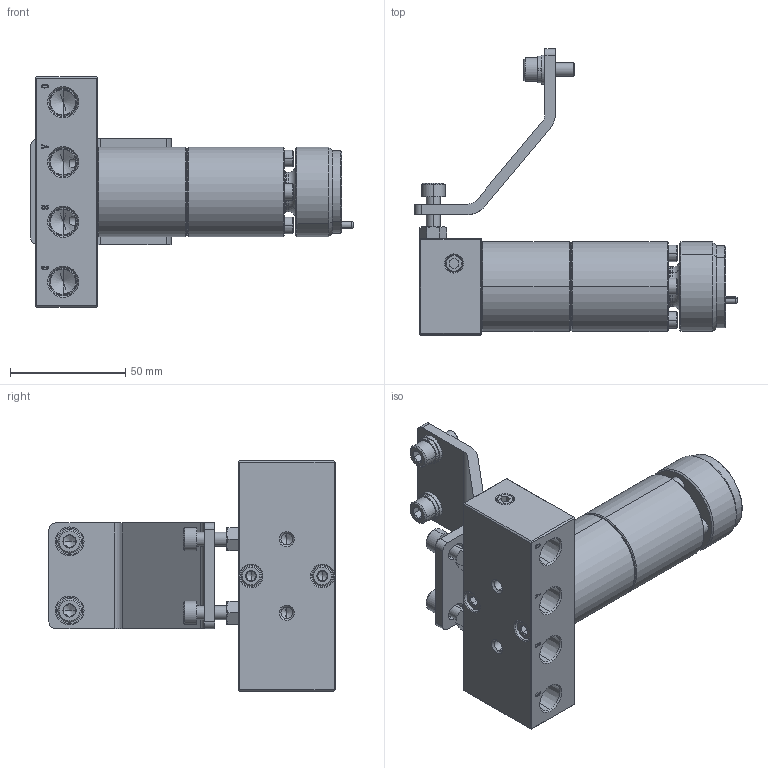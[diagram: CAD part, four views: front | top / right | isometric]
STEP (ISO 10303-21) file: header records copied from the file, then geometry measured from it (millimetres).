
FILE_DESCRIPTION (( 'STEP AP214' ), '1' );
FILE_NAME ('OUTSIDE VIEW(61E8540351)RJ40F14W09.STEP', '2025-07-14T23:45:14', ( '' ), ( '' ), 'SwSTEP 2.0', 'SolidWorks 2022', '' );
FILE_SCHEMA (( 'AUTOMOTIVE_DESIGN' ));
Length unit declared in the file: millimetre
Products named in the file (4): RJ40F14W09_VALVE; OUTSIDE VIEW(61E8540351)RJ40F14W09; RJ40F14W09_BLOCK; RJ40F14W09_STOPPER
Assembly tree (3 placements, depth 2):
  OUTSIDE VIEW(61E8540351)RJ40F14W09
    RJ40F14W09_VALVE
    RJ40F14W09_STOPPER
    RJ40F14W09_BLOCK
Bounding box: 140 x 124.32 x 100 mm (x, y, z)
Volume: 243740 mm3; surface area: 71924.5 mm2
Topology: 30 solids, 30 shells, 828 faces, 1992 edges, 1202 vertices
Faces by surface type: cone 269, plane 267, cylinder 216, bspline 72, torus 4
Entity records: 36257 total; most frequent: CARTESIAN_POINT 8381, ORIENTED_EDGE 3824, DIRECTION 3685, EDGE_CURVE 1912, AXIS2_PLACEMENT_3D 1413, VERTEX_POINT 1202, EDGE_LOOP 936, UNCERTAINTY_MEASURE_WITH_UNIT 865
